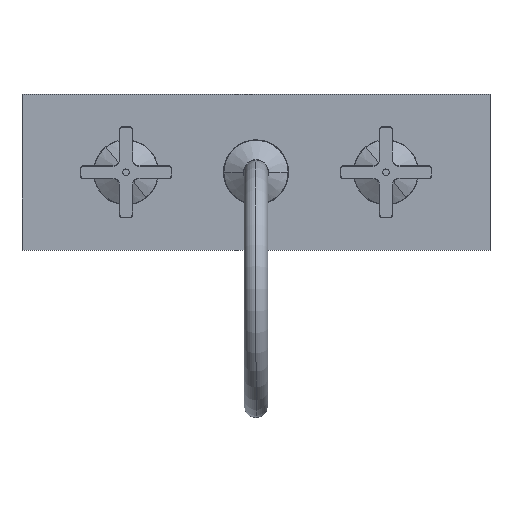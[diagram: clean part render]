
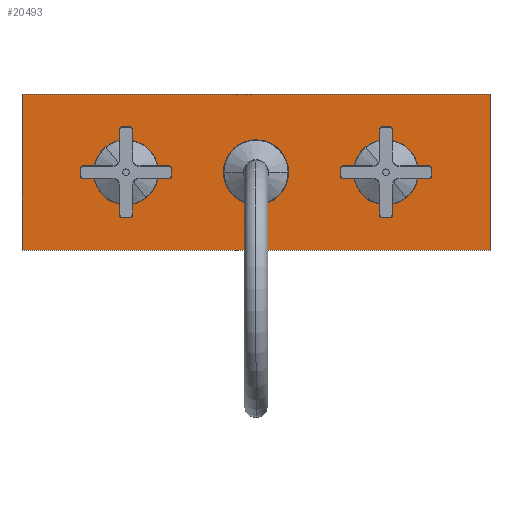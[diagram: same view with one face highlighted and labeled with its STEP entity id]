
A CAD part, top view. The second image highlights one B-rep face of the part: STEP entity #20493.
In plain terms, the highlighted planar face has unit normal (0, 0, 1).
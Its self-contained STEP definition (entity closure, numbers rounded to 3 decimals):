
#585 = EDGE_LOOP ( 'NONE', ( #18807, #11689 ) ) ;
#1272 = EDGE_CURVE ( 'NONE', #30056, #15722, #16166, .T. ) ;
#1377 = CARTESIAN_POINT ( 'NONE',  ( -17.5, 0., 20. ) ) ;
#1519 = CARTESIAN_POINT ( 'NONE',  ( -300., 60., 20. ) ) ;
#2418 = ORIENTED_EDGE ( 'NONE', *, *, #24189, .F. ) ;
#2544 = CARTESIAN_POINT ( 'NONE',  ( -180., 60., 20. ) ) ;
#3860 = CIRCLE ( 'NONE', #23640, 17.5 ) ;
#4639 = FACE_BOUND ( 'NONE', #585, .T. ) ;
#4818 = VERTEX_POINT ( 'NONE', #32635 ) ;
#4951 = ORIENTED_EDGE ( 'NONE', *, *, #18170, .F. ) ;
#5316 = DIRECTION ( 'NONE',  ( 1., 0., 0. ) ) ;
#5884 = ORIENTED_EDGE ( 'NONE', *, *, #1272, .T. ) ;
#5891 = VERTEX_POINT ( 'NONE', #7620 ) ;
#7620 = CARTESIAN_POINT ( 'NONE',  ( 115., 0., 20. ) ) ;
#7709 = VECTOR ( 'NONE', #21150, 1000. ) ;
#8102 = PLANE ( 'NONE',  #16237 ) ;
#8727 = VERTEX_POINT ( 'NONE', #19630 ) ;
#9640 = CIRCLE ( 'NONE', #33021, 15. ) ;
#9686 = EDGE_CURVE ( 'NONE', #13283, #28846, #34547, .T. ) ;
#10286 = ORIENTED_EDGE ( 'NONE', *, *, #32694, .F. ) ;
#10394 = VERTEX_POINT ( 'NONE', #2544 ) ;
#10877 = ORIENTED_EDGE ( 'NONE', *, *, #19583, .T. ) ;
#11092 = EDGE_CURVE ( 'NONE', #4818, #8727, #9640, .T. ) ;
#11201 = DIRECTION ( 'NONE',  ( 0., 0., 1. ) ) ;
#11689 = ORIENTED_EDGE ( 'NONE', *, *, #9686, .F. ) ;
#12087 = FACE_BOUND ( 'NONE', #16309, .T. ) ;
#12420 = CARTESIAN_POINT ( 'NONE',  ( -100., 0., 20. ) ) ;
#13172 = DIRECTION ( 'NONE',  ( 0., -1., 0. ) ) ;
#13225 = DIRECTION ( 'NONE',  ( 1., 0., 0. ) ) ;
#13283 = VERTEX_POINT ( 'NONE', #19026 ) ;
#13299 = CARTESIAN_POINT ( 'NONE',  ( 180., 60., 20. ) ) ;
#13516 = VECTOR ( 'NONE', #35228, 1000. ) ;
#14225 = EDGE_CURVE ( 'NONE', #8727, #4818, #18332, .T. ) ;
#15161 = CARTESIAN_POINT ( 'NONE',  ( -180., 60., 20. ) ) ;
#15722 = VERTEX_POINT ( 'NONE', #26067 ) ;
#15865 = VERTEX_POINT ( 'NONE', #29239 ) ;
#16166 = LINE ( 'NONE', #18235, #13516 ) ;
#16174 = DIRECTION ( 'NONE',  ( 1., 0., 0. ) ) ;
#16237 = AXIS2_PLACEMENT_3D ( 'NONE', #22456, #30411, #5316 ) ;
#16309 = EDGE_LOOP ( 'NONE', ( #2418, #4951 ) ) ;
#17411 = DIRECTION ( 'NONE',  ( 1., 0., 0. ) ) ;
#17800 = CARTESIAN_POINT ( 'NONE',  ( 0., 0., 20. ) ) ;
#18041 = DIRECTION ( 'NONE',  ( 0., 0., 1. ) ) ;
#18170 = EDGE_CURVE ( 'NONE', #5891, #15865, #26710, .T. ) ;
#18235 = CARTESIAN_POINT ( 'NONE',  ( -300., -60., 20. ) ) ;
#18332 = CIRCLE ( 'NONE', #31458, 15. ) ;
#18468 = EDGE_LOOP ( 'NONE', ( #32010, #32826 ) ) ;
#18807 = ORIENTED_EDGE ( 'NONE', *, *, #25401, .F. ) ;
#19026 = CARTESIAN_POINT ( 'NONE',  ( 17.5, 0., 20. ) ) ;
#19207 = DIRECTION ( 'NONE',  ( 0., 0., 1. ) ) ;
#19583 = EDGE_CURVE ( 'NONE', #29456, #10394, #31849, .T. ) ;
#19630 = CARTESIAN_POINT ( 'NONE',  ( -85., 0., 20. ) ) ;
#20493 = ADVANCED_FACE ( 'NONE', ( #27002, #30495, #12087, #4639 ), #8102, .T. ) ;
#20882 = DIRECTION ( 'NONE',  ( 0., 0., 1. ) ) ;
#21150 = DIRECTION ( 'NONE',  ( 0., 1., 0. ) ) ;
#21435 = EDGE_LOOP ( 'NONE', ( #10286, #10877, #35199, #5884 ) ) ;
#22456 = CARTESIAN_POINT ( 'NONE',  ( -300., -60., 20. ) ) ;
#23036 = LINE ( 'NONE', #13299, #34871 ) ;
#23103 = AXIS2_PLACEMENT_3D ( 'NONE', #25021, #34281, #17411 ) ;
#23251 = CARTESIAN_POINT ( 'NONE',  ( -100., 0., 20. ) ) ;
#23640 = AXIS2_PLACEMENT_3D ( 'NONE', #32676, #32562, #13225 ) ;
#23697 = DIRECTION ( 'NONE',  ( 1., 0., 0. ) ) ;
#23826 = DIRECTION ( 'NONE',  ( -1., 0., 0. ) ) ;
#24189 = EDGE_CURVE ( 'NONE', #15865, #5891, #24530, .T. ) ;
#24388 = LINE ( 'NONE', #15161, #7709 ) ;
#24530 = CIRCLE ( 'NONE', #30168, 15. ) ;
#25021 = CARTESIAN_POINT ( 'NONE',  ( 100., 0., 20. ) ) ;
#25192 = CARTESIAN_POINT ( 'NONE',  ( 100., 0., 20. ) ) ;
#25401 = EDGE_CURVE ( 'NONE', #28846, #13283, #3860, .T. ) ;
#26067 = CARTESIAN_POINT ( 'NONE',  ( 180., -60., 20. ) ) ;
#26710 = CIRCLE ( 'NONE', #23103, 15. ) ;
#27002 = FACE_OUTER_BOUND ( 'NONE', #21435, .T. ) ;
#27364 = CARTESIAN_POINT ( 'NONE',  ( -180., -60., 20. ) ) ;
#28846 = VERTEX_POINT ( 'NONE', #1377 ) ;
#29239 = CARTESIAN_POINT ( 'NONE',  ( 85., 0., 20. ) ) ;
#29456 = VERTEX_POINT ( 'NONE', #35621 ) ;
#30056 = VERTEX_POINT ( 'NONE', #27364 ) ;
#30168 = AXIS2_PLACEMENT_3D ( 'NONE', #25192, #11201, #33493 ) ;
#30411 = DIRECTION ( 'NONE',  ( 0., 0., 1. ) ) ;
#30495 = FACE_BOUND ( 'NONE', #18468, .T. ) ;
#30985 = VECTOR ( 'NONE', #23826, 1000. ) ;
#31458 = AXIS2_PLACEMENT_3D ( 'NONE', #23251, #19207, #16174 ) ;
#31849 = LINE ( 'NONE', #1519, #30985 ) ;
#32010 = ORIENTED_EDGE ( 'NONE', *, *, #11092, .F. ) ;
#32407 = EDGE_CURVE ( 'NONE', #30056, #10394, #24388, .T. ) ;
#32562 = DIRECTION ( 'NONE',  ( 0., 0., 1. ) ) ;
#32635 = CARTESIAN_POINT ( 'NONE',  ( -115., 0., 20. ) ) ;
#32676 = CARTESIAN_POINT ( 'NONE',  ( 0., 0., 20. ) ) ;
#32694 = EDGE_CURVE ( 'NONE', #29456, #15722, #23036, .T. ) ;
#32826 = ORIENTED_EDGE ( 'NONE', *, *, #14225, .F. ) ;
#33021 = AXIS2_PLACEMENT_3D ( 'NONE', #12420, #20882, #23697 ) ;
#33465 = AXIS2_PLACEMENT_3D ( 'NONE', #17800, #18041, #35044 ) ;
#33493 = DIRECTION ( 'NONE',  ( 1., 0., 0. ) ) ;
#34281 = DIRECTION ( 'NONE',  ( 0., 0., 1. ) ) ;
#34547 = CIRCLE ( 'NONE', #33465, 17.5 ) ;
#34871 = VECTOR ( 'NONE', #13172, 1000. ) ;
#35044 = DIRECTION ( 'NONE',  ( 1., 0., 0. ) ) ;
#35199 = ORIENTED_EDGE ( 'NONE', *, *, #32407, .F. ) ;
#35228 = DIRECTION ( 'NONE',  ( 1., 0., 0. ) ) ;
#35621 = CARTESIAN_POINT ( 'NONE',  ( 180., 60., 20. ) ) ;
